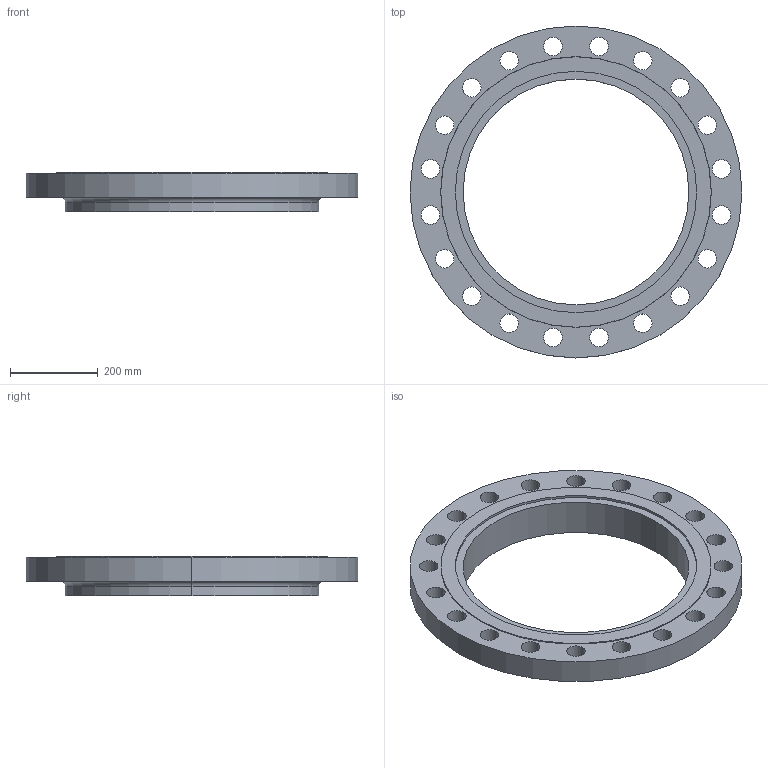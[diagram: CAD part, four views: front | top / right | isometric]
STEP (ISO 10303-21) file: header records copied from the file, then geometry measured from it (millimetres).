
FILE_DESCRIPTION (( 'STEP AP214' ), '1' );
FILE_NAME ('PN40 DN500 Type 12 - Type G Face.STEP', '2018-12-29T01:23:50', ( '' ), ( '' ), 'SwSTEP 2.0', 'SolidWorks 2019', '' );
FILE_SCHEMA (( 'AUTOMOTIVE_DESIGN' ));
Length unit declared in the file: millimetre
Products named in the file (1): PN40 DN500 Type 12 - Type G Face
Bounding box: 755 x 755 x 90 mm (x, y, z)
Volume: 13548045.8 mm3; surface area: 900886.4 mm2
Topology: 1 solids, 1 shells, 57 faces, 154 edges, 102 vertices
Faces by surface type: cylinder 48, plane 5, torus 2, cone 2
Entity records: 1974 total; most frequent: DIRECTION 374, CARTESIAN_POINT 314, ORIENTED_EDGE 308, AXIS2_PLACEMENT_3D 162, EDGE_CURVE 154, CIRCLE 104, EDGE_LOOP 102, VERTEX_POINT 102
